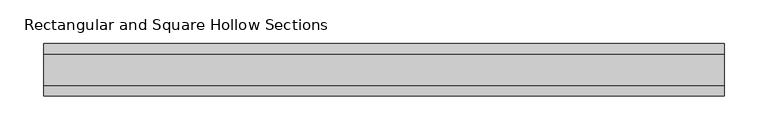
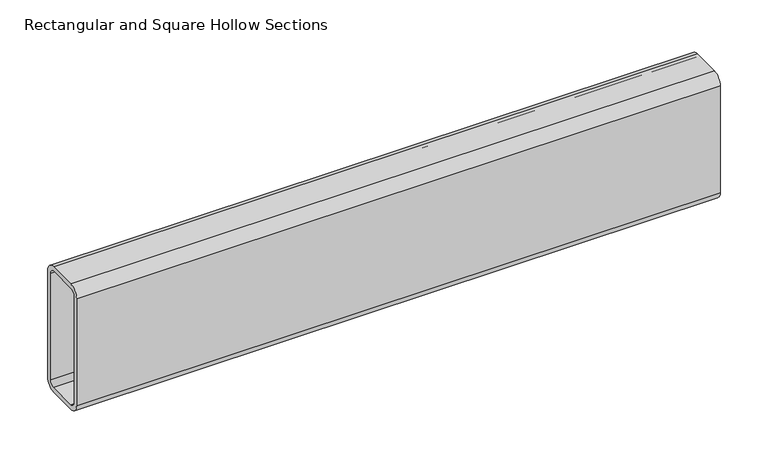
"""IFC4 building model written with IfcOpenShell, lengths in millimetres: beam geometry, Rectangular and Square Hollow Sections : TREC160x60x6."""

from ifc_helpers import new_model, si_unit, point, frame, frame_2d, origin, place, context, project, spatial, polyline, circle_curve, trimmed, segment, composite_curve, outline, extrude, source, transform, mapped, element, save


def rectangular_and_square_hollow_sections_102f63ac(model_context):
    return source(origin(), model_context, "Body", "SweptSolid", [
        extrude(outline(composite_curve([segment(polyline([(30.0, 68.0), (30.0, -68.0)]), True, "CONTINUOUS"), segment(trimmed(circle_curve(frame_2d((18.0, -68.0)), 12.0), [point((30.0, -68.0))], [point((18.0, -80.0))], False, "CARTESIAN"), True, "CONTINUOUS"), segment(polyline([(18.0, -80.0), (-18.0, -80.0)]), True, "CONTINUOUS"), segment(trimmed(circle_curve(frame_2d((-18.0, -68.0)), 12.0), [point((-18.0, -80.0))], [point((-30.0, -68.0))], False, "CARTESIAN"), True, "CONTINUOUS"), segment(polyline([(-30.0, -68.0), (-30.0, 68.0)]), True, "CONTINUOUS"), segment(trimmed(circle_curve(frame_2d((-18.0, 68.0)), 12.0), [point((-30.0, 68.0))], [point((-18.0, 80.0))], False, "CARTESIAN"), True, "CONTINUOUS"), segment(polyline([(-18.0, 80.0), (18.0, 80.0)]), True, "CONTINUOUS"), segment(trimmed(circle_curve(frame_2d((18.0, 68.0)), 12.0), [point((18.0, 80.0))], [point((30.0, 68.0))], False, "CARTESIAN"), True, "CONTINUOUS")], self_intersect=False), holes=[composite_curve([segment(trimmed(circle_curve(frame_2d((-18.0, 68.0)), 6.0), [point((-18.0, 74.0))], [point((-24.0, 68.0))], True, "CARTESIAN"), True, "CONTINUOUS"), segment(polyline([(-24.0, 68.0), (-24.0, -68.0)]), True, "CONTINUOUS"), segment(trimmed(circle_curve(frame_2d((-18.0, -68.0)), 6.0), [point((-24.0, -68.0))], [point((-18.0, -74.0))], True, "CARTESIAN"), True, "CONTINUOUS"), segment(polyline([(-18.0, -74.0), (18.0, -74.0)]), True, "CONTINUOUS"), segment(trimmed(circle_curve(frame_2d((18.0, -68.0)), 6.0), [point((18.0, -74.0))], [point((24.0, -68.0))], True, "CARTESIAN"), True, "CONTINUOUS"), segment(polyline([(24.0, -68.0), (24.0, 68.0)]), True, "CONTINUOUS"), segment(trimmed(circle_curve(frame_2d((18.0, 68.0)), 6.0), [point((24.0, 68.0))], [point((18.0, 74.0))], True, "CARTESIAN"), True, "CONTINUOUS"), segment(polyline([(18.0, 74.0), (-18.0, 74.0)]), True, "CONTINUOUS")], self_intersect=False)]), frame((-508.5, 0.0, 0.0), z_axis=(1.0, 0.0, 0.0), x_axis=(0.0, 1.0, 0.0)), (0.0, 0.0, 1.0), 776.0),
    ])


if __name__ == "__main__":
    model = new_model("IFC4")
    model_context = context("Model", 3, world=origin())
    ifc_project = project(units=[si_unit("LENGTHUNIT", "METRE", prefix="MILLI")], contexts=[model_context])
    site = spatial("IfcSite", under=ifc_project)
    building = spatial("IfcBuilding", under=site)
    placement = place(None, origin())
    rectangular_and_square_hollow_sections_shape = rectangular_and_square_hollow_sections_102f63ac(model_context)
    element("IfcBeam", 1, ObjectType="Rectangular and Square Hollow Sections : TREC160x60x6", at=placement, inside=building, context=model_context, shape_type="MappedRepresentation", body=[
        mapped(rectangular_and_square_hollow_sections_shape, transform((0.0, 0.0, 0.0), x_axis=(1.0, 0.0, 0.0), y_axis=(0.0, 1.0, 0.0), z_axis=(0.0, 0.0, 1.0))),
    ])
    save(model, "model.ifc")
